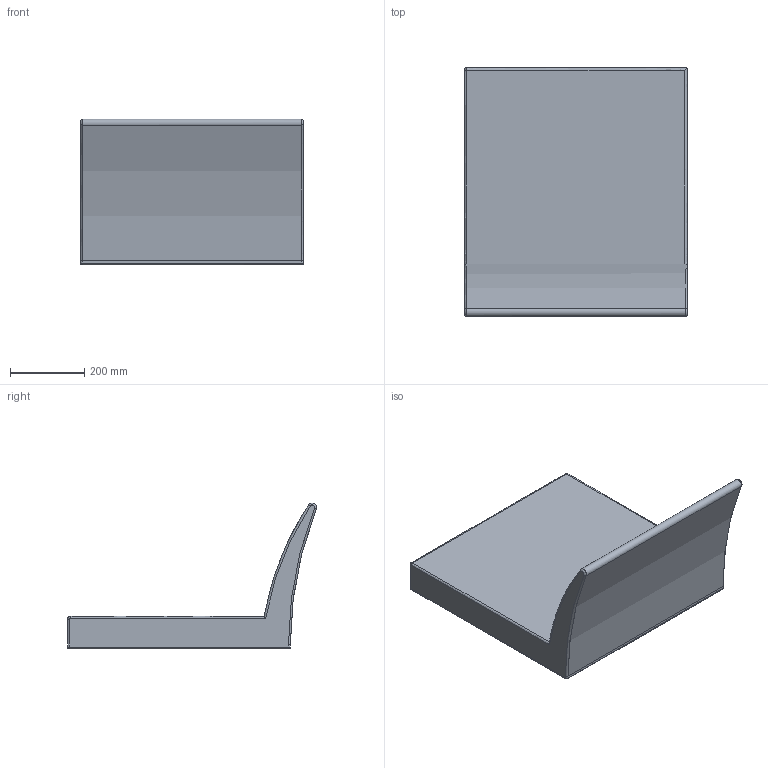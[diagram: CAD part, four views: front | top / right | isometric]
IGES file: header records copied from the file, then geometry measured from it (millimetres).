
Global section: file name: C:\Users\alberto.volpato\Desktop\Files\SCOCCAS.igs; native system: Rhinoceros ( Mar  9 2011 ); preprocessor: Trout Lake IGES 012 Mar  9 2011; date: 160505.081648; units: millimetre
Bounding box: 600 x 670.35 x 392.83 mm (x, y, z)
Surface area: 1384514.4 mm2 (no closed solid volume)
Topology: 0 solids, 0 shells, 36 faces, 170 edges, 166 vertices
Faces by surface type: bspline 36
